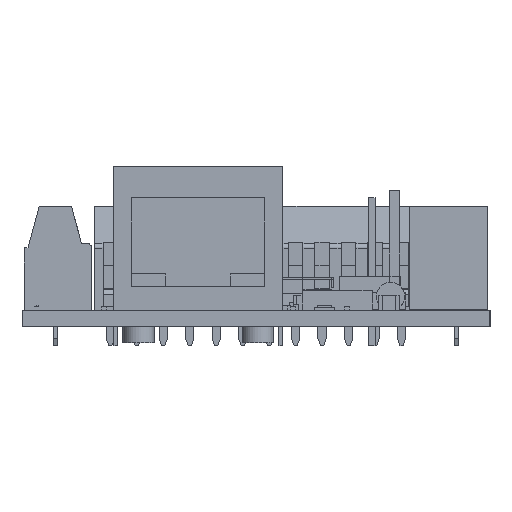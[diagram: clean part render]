
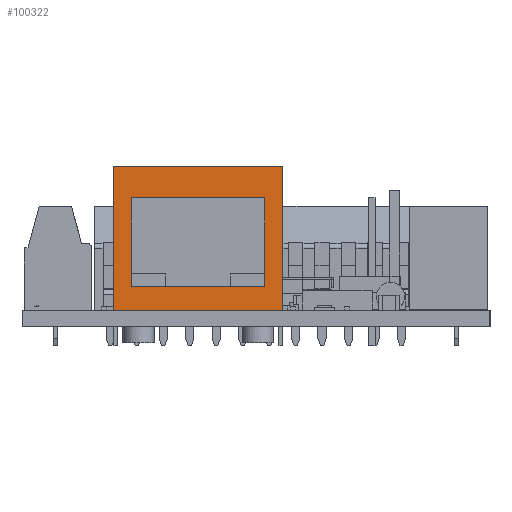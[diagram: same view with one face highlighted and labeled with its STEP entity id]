
A CAD part, left-side view. The second image highlights one B-rep face of the part: STEP entity #100322.
In plain terms, the highlighted planar face has unit normal (-1, 0, 0).
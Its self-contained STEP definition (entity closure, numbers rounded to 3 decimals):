
#100322 = ADVANCED_FACE('',(#100323),#100337,.F.);
#100323 = FACE_BOUND('',#100324,.F.);
#100324 = EDGE_LOOP('',(#100325,#100360,#100388,#100416));
#100325 = ORIENTED_EDGE('',*,*,#100326,.T.);
#100326 = EDGE_CURVE('',#100327,#100329,#100331,.T.);
#100327 = VERTEX_POINT('',#100328);
#100328 = CARTESIAN_POINT('',(-10.8,8.13,0.));
#100329 = VERTEX_POINT('',#100330);
#100330 = CARTESIAN_POINT('',(-10.8,8.13,13.84));
#100331 = SURFACE_CURVE('',#100332,(#100336,#100348),.PCURVE_S1.);
#100332 = LINE('',#100333,#100334);
#100333 = CARTESIAN_POINT('',(-10.8,8.13,0.));
#100334 = VECTOR('',#100335,1.);
#100335 = DIRECTION('',(0.,0.,1.));
#100336 = PCURVE('',#100337,#100342);
#100337 = PLANE('',#100338);
#100338 = AXIS2_PLACEMENT_3D('',#100339,#100340,#100341);
#100339 = CARTESIAN_POINT('',(-10.8,8.13,0.));
#100340 = DIRECTION('',(1.,0.,0.));
#100341 = DIRECTION('',(0.,-1.,0.));
#100342 = DEFINITIONAL_REPRESENTATION('',(#100343),#100347);
#100343 = LINE('',#100344,#100345);
#100344 = CARTESIAN_POINT('',(0.,0.));
#100345 = VECTOR('',#100346,1.);
#100346 = DIRECTION('',(0.,-1.));
#100347 = ( GEOMETRIC_REPRESENTATION_CONTEXT(2) 
PARAMETRIC_REPRESENTATION_CONTEXT() REPRESENTATION_CONTEXT('2D SPACE',''
  ) );
#100348 = PCURVE('',#100349,#100354);
#100349 = PLANE('',#100350);
#100350 = AXIS2_PLACEMENT_3D('',#100351,#100352,#100353);
#100351 = CARTESIAN_POINT('',(10.8,8.13,0.));
#100352 = DIRECTION('',(0.,-1.,0.));
#100353 = DIRECTION('',(-1.,0.,0.));
#100354 = DEFINITIONAL_REPRESENTATION('',(#100355),#100359);
#100355 = LINE('',#100356,#100357);
#100356 = CARTESIAN_POINT('',(21.6,0.));
#100357 = VECTOR('',#100358,1.);
#100358 = DIRECTION('',(0.,-1.));
#100359 = ( GEOMETRIC_REPRESENTATION_CONTEXT(2) 
PARAMETRIC_REPRESENTATION_CONTEXT() REPRESENTATION_CONTEXT('2D SPACE',''
  ) );
#100360 = ORIENTED_EDGE('',*,*,#100361,.T.);
#100361 = EDGE_CURVE('',#100329,#100362,#100364,.T.);
#100362 = VERTEX_POINT('',#100363);
#100363 = CARTESIAN_POINT('',(-10.8,-8.13,13.84));
#100364 = SURFACE_CURVE('',#100365,(#100369,#100376),.PCURVE_S1.);
#100365 = LINE('',#100366,#100367);
#100366 = CARTESIAN_POINT('',(-10.8,8.13,13.84));
#100367 = VECTOR('',#100368,1.);
#100368 = DIRECTION('',(0.,-1.,0.));
#100369 = PCURVE('',#100337,#100370);
#100370 = DEFINITIONAL_REPRESENTATION('',(#100371),#100375);
#100371 = LINE('',#100372,#100373);
#100372 = CARTESIAN_POINT('',(0.,-13.84));
#100373 = VECTOR('',#100374,1.);
#100374 = DIRECTION('',(1.,0.));
#100375 = ( GEOMETRIC_REPRESENTATION_CONTEXT(2) 
PARAMETRIC_REPRESENTATION_CONTEXT() REPRESENTATION_CONTEXT('2D SPACE',''
  ) );
#100376 = PCURVE('',#100377,#100382);
#100377 = PLANE('',#100378);
#100378 = AXIS2_PLACEMENT_3D('',#100379,#100380,#100381);
#100379 = CARTESIAN_POINT('',(-10.8,8.13,13.84));
#100380 = DIRECTION('',(0.,0.,-1.));
#100381 = DIRECTION('',(-1.,0.,0.));
#100382 = DEFINITIONAL_REPRESENTATION('',(#100383),#100387);
#100383 = LINE('',#100384,#100385);
#100384 = CARTESIAN_POINT('',(0.,0.));
#100385 = VECTOR('',#100386,1.);
#100386 = DIRECTION('',(0.,-1.));
#100387 = ( GEOMETRIC_REPRESENTATION_CONTEXT(2) 
PARAMETRIC_REPRESENTATION_CONTEXT() REPRESENTATION_CONTEXT('2D SPACE',''
  ) );
#100388 = ORIENTED_EDGE('',*,*,#100389,.F.);
#100389 = EDGE_CURVE('',#100390,#100362,#100392,.T.);
#100390 = VERTEX_POINT('',#100391);
#100391 = CARTESIAN_POINT('',(-10.8,-8.13,0.));
#100392 = SURFACE_CURVE('',#100393,(#100397,#100404),.PCURVE_S1.);
#100393 = LINE('',#100394,#100395);
#100394 = CARTESIAN_POINT('',(-10.8,-8.13,0.));
#100395 = VECTOR('',#100396,1.);
#100396 = DIRECTION('',(0.,0.,1.));
#100397 = PCURVE('',#100337,#100398);
#100398 = DEFINITIONAL_REPRESENTATION('',(#100399),#100403);
#100399 = LINE('',#100400,#100401);
#100400 = CARTESIAN_POINT('',(16.26,0.));
#100401 = VECTOR('',#100402,1.);
#100402 = DIRECTION('',(0.,-1.));
#100403 = ( GEOMETRIC_REPRESENTATION_CONTEXT(2) 
PARAMETRIC_REPRESENTATION_CONTEXT() REPRESENTATION_CONTEXT('2D SPACE',''
  ) );
#100404 = PCURVE('',#100405,#100410);
#100405 = PLANE('',#100406);
#100406 = AXIS2_PLACEMENT_3D('',#100407,#100408,#100409);
#100407 = CARTESIAN_POINT('',(-10.8,-8.13,0.));
#100408 = DIRECTION('',(0.,1.,0.));
#100409 = DIRECTION('',(1.,0.,0.));
#100410 = DEFINITIONAL_REPRESENTATION('',(#100411),#100415);
#100411 = LINE('',#100412,#100413);
#100412 = CARTESIAN_POINT('',(0.,0.));
#100413 = VECTOR('',#100414,1.);
#100414 = DIRECTION('',(0.,-1.));
#100415 = ( GEOMETRIC_REPRESENTATION_CONTEXT(2) 
PARAMETRIC_REPRESENTATION_CONTEXT() REPRESENTATION_CONTEXT('2D SPACE',''
  ) );
#100416 = ORIENTED_EDGE('',*,*,#100417,.F.);
#100417 = EDGE_CURVE('',#100327,#100390,#100418,.T.);
#100418 = SURFACE_CURVE('',#100419,(#100423,#100430),.PCURVE_S1.);
#100419 = LINE('',#100420,#100421);
#100420 = CARTESIAN_POINT('',(-10.8,8.13,0.));
#100421 = VECTOR('',#100422,1.);
#100422 = DIRECTION('',(0.,-1.,0.));
#100423 = PCURVE('',#100337,#100424);
#100424 = DEFINITIONAL_REPRESENTATION('',(#100425),#100429);
#100425 = LINE('',#100426,#100427);
#100426 = CARTESIAN_POINT('',(0.,0.));
#100427 = VECTOR('',#100428,1.);
#100428 = DIRECTION('',(1.,0.));
#100429 = ( GEOMETRIC_REPRESENTATION_CONTEXT(2) 
PARAMETRIC_REPRESENTATION_CONTEXT() REPRESENTATION_CONTEXT('2D SPACE',''
  ) );
#100430 = PCURVE('',#100431,#100436);
#100431 = PLANE('',#100432);
#100432 = AXIS2_PLACEMENT_3D('',#100433,#100434,#100435);
#100433 = CARTESIAN_POINT('',(-10.8,8.13,0.));
#100434 = DIRECTION('',(0.,0.,-1.));
#100435 = DIRECTION('',(-1.,0.,0.));
#100436 = DEFINITIONAL_REPRESENTATION('',(#100437),#100441);
#100437 = LINE('',#100438,#100439);
#100438 = CARTESIAN_POINT('',(0.,0.));
#100439 = VECTOR('',#100440,1.);
#100440 = DIRECTION('',(0.,-1.));
#100441 = ( GEOMETRIC_REPRESENTATION_CONTEXT(2) 
PARAMETRIC_REPRESENTATION_CONTEXT() REPRESENTATION_CONTEXT('2D SPACE',''
  ) );
